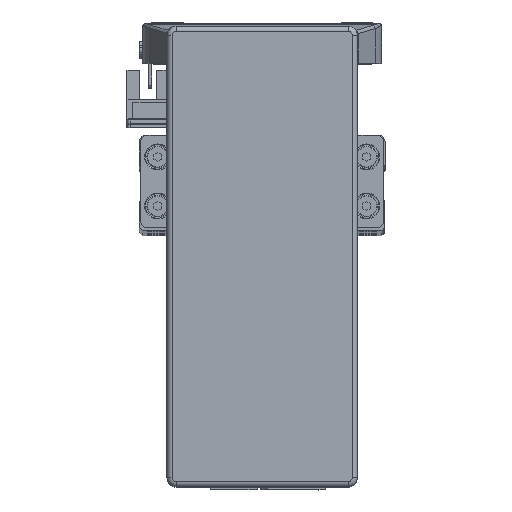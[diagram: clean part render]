
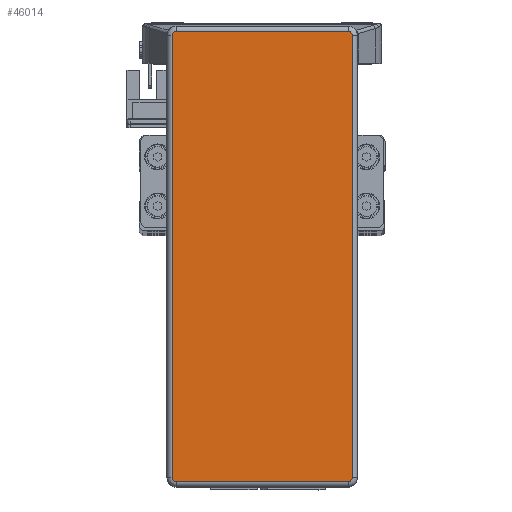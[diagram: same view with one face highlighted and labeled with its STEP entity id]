
A CAD part, top view. The second image highlights one B-rep face of the part: STEP entity #46014.
In plain terms, the highlighted planar face has unit normal (0, 0, 1) as drawn and (0, 0, -1) by its records, which use the part's own axes.
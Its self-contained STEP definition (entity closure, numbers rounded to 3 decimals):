
#561 = VECTOR ( 'NONE', #5473, 1000. ) ;
#1150 = CIRCLE ( 'NONE', #31069, 1.3 ) ;
#1151 = CIRCLE ( 'NONE', #31112, 1.3 ) ;
#1152 = LINE ( 'NONE', #5345, #1186 ) ;
#1155 = VECTOR ( 'NONE', #5392, 1000. ) ;
#1156 = LINE ( 'NONE', #5449, #561 ) ;
#1170 = CIRCLE ( 'NONE', #31020, 1.3 ) ;
#1176 = LINE ( 'NONE', #5416, #1155 ) ;
#1184 = VECTOR ( 'NONE', #5358, 1000. ) ;
#1186 = VECTOR ( 'NONE', #5349, 1000. ) ;
#1194 = CIRCLE ( 'NONE', #30990, 1.3 ) ;
#1197 = LINE ( 'NONE', #5371, #1184 ) ;
#1646 = EDGE_CURVE ( 'NONE', #30550, #30503, #1150, .T. ) ;
#1654 = EDGE_CURVE ( 'NONE', #30503, #30610, #1152, .T. ) ;
#1655 = EDGE_CURVE ( 'NONE', #36758, #25491, #1170, .T. ) ;
#1658 = EDGE_CURVE ( 'NONE', #30603, #30550, #1197, .T. ) ;
#1681 = EDGE_CURVE ( 'NONE', #30502, #30603, #1194, .T. ) ;
#1683 = EDGE_CURVE ( 'NONE', #30610, #36753, #1151, .T. ) ;
#1685 = EDGE_CURVE ( 'NONE', #25491, #30502, #1176, .T. ) ;
#1691 = EDGE_CURVE ( 'NONE', #36753, #36758, #1156, .T. ) ;
#5319 = DIRECTION ( 'NONE',  ( 1., 0., 0. ) ) ;
#5325 = CARTESIAN_POINT ( 'NONE',  ( -71.995, 27.995, -32.2 ) ) ;
#5345 = CARTESIAN_POINT ( 'NONE',  ( 71.995, 29.295, -32.2 ) ) ;
#5346 = DIRECTION ( 'NONE',  ( 0., 0., -1. ) ) ;
#5349 = DIRECTION ( 'NONE',  ( 1., 0., 0. ) ) ;
#5355 = CARTESIAN_POINT ( 'NONE',  ( 71.995, -27.995, -32.2 ) ) ;
#5358 = DIRECTION ( 'NONE',  ( 0., 1., 0. ) ) ;
#5371 = CARTESIAN_POINT ( 'NONE',  ( -73.295, -27.995, -32.2 ) ) ;
#5377 = DIRECTION ( 'NONE',  ( 1., 0., 0. ) ) ;
#5380 = DIRECTION ( 'NONE',  ( 0., 0., -1. ) ) ;
#5392 = DIRECTION ( 'NONE',  ( -1., 0., 0. ) ) ;
#5411 = DIRECTION ( 'NONE',  ( 1., 0., 0. ) ) ;
#5416 = CARTESIAN_POINT ( 'NONE',  ( 71.995, -29.295, -32.2 ) ) ;
#5418 = CARTESIAN_POINT ( 'NONE',  ( 71.995, 27.995, -32.2 ) ) ;
#5419 = DIRECTION ( 'NONE',  ( 0., 0., -1. ) ) ;
#5420 = DIRECTION ( 'NONE',  ( 1., 0., 0. ) ) ;
#5426 = CARTESIAN_POINT ( 'NONE',  ( -71.995, -27.995, -32.2 ) ) ;
#5428 = DIRECTION ( 'NONE',  ( 0., 0., -1. ) ) ;
#5449 = CARTESIAN_POINT ( 'NONE',  ( 73.295, -27.995, -32.2 ) ) ;
#5473 = DIRECTION ( 'NONE',  ( 0., -1., 0. ) ) ;
#12325 = CARTESIAN_POINT ( 'NONE',  ( 71.995, -29.295, -32.2 ) ) ;
#12463 = CARTESIAN_POINT ( 'NONE',  ( -71.995, -29.295, -32.2 ) ) ;
#12522 = CARTESIAN_POINT ( 'NONE',  ( -71.995, 29.295, -32.2 ) ) ;
#12596 = CARTESIAN_POINT ( 'NONE',  ( -73.295, 27.995, -32.2 ) ) ;
#12734 = CARTESIAN_POINT ( 'NONE',  ( -73.295, -27.995, -32.2 ) ) ;
#12778 = CARTESIAN_POINT ( 'NONE',  ( 71.995, 29.295, -32.2 ) ) ;
#13456 = CARTESIAN_POINT ( 'NONE',  ( 73.295, 27.995, -32.2 ) ) ;
#13459 = CARTESIAN_POINT ( 'NONE',  ( 73.295, -27.995, -32.2 ) ) ;
#19870 = ORIENTED_EDGE ( 'NONE', *, *, #1691, .T. ) ;
#19879 = ORIENTED_EDGE ( 'NONE', *, *, #1658, .T. ) ;
#19896 = ORIENTED_EDGE ( 'NONE', *, *, #1683, .T. ) ;
#19899 = ORIENTED_EDGE ( 'NONE', *, *, #1685, .T. ) ;
#19908 = ORIENTED_EDGE ( 'NONE', *, *, #1654, .T. ) ;
#19910 = ORIENTED_EDGE ( 'NONE', *, *, #1681, .T. ) ;
#19922 = ORIENTED_EDGE ( 'NONE', *, *, #1655, .T. ) ;
#19925 = ORIENTED_EDGE ( 'NONE', *, *, #1646, .T. ) ;
#25491 = VERTEX_POINT ( 'NONE', #12325 ) ;
#27054 = EDGE_LOOP ( 'NONE', ( #19870, #19922, #19899, #19910, #19879, #19925, #19908, #19896 ) ) ;
#30502 = VERTEX_POINT ( 'NONE', #12463 ) ;
#30503 = VERTEX_POINT ( 'NONE', #12522 ) ;
#30550 = VERTEX_POINT ( 'NONE', #12596 ) ;
#30603 = VERTEX_POINT ( 'NONE', #12734 ) ;
#30610 = VERTEX_POINT ( 'NONE', #12778 ) ;
#30990 = AXIS2_PLACEMENT_3D ( 'NONE', #5426, #5428, #5411 ) ;
#31020 = AXIS2_PLACEMENT_3D ( 'NONE', #5355, #5380, #5377 ) ;
#31069 = AXIS2_PLACEMENT_3D ( 'NONE', #5325, #5346, #5319 ) ;
#31112 = AXIS2_PLACEMENT_3D ( 'NONE', #5418, #5419, #5420 ) ;
#34892 = AXIS2_PLACEMENT_3D ( 'NONE', #39744, #39724, #39750 ) ;
#36753 = VERTEX_POINT ( 'NONE', #13456 ) ;
#36758 = VERTEX_POINT ( 'NONE', #13459 ) ;
#38709 = FACE_OUTER_BOUND ( 'NONE', #27054, .T. ) ;
#39723 = PLANE ( 'NONE',  #34892 ) ;
#39724 = DIRECTION ( 'NONE',  ( 0., 0., 1. ) ) ;
#39744 = CARTESIAN_POINT ( 'NONE',  ( 71.995, -27.995, -32.2 ) ) ;
#39750 = DIRECTION ( 'NONE',  ( 1., 0., 0. ) ) ;
#46014 = ADVANCED_FACE ( 'NONE', ( #38709 ), #39723, .F. ) ;
